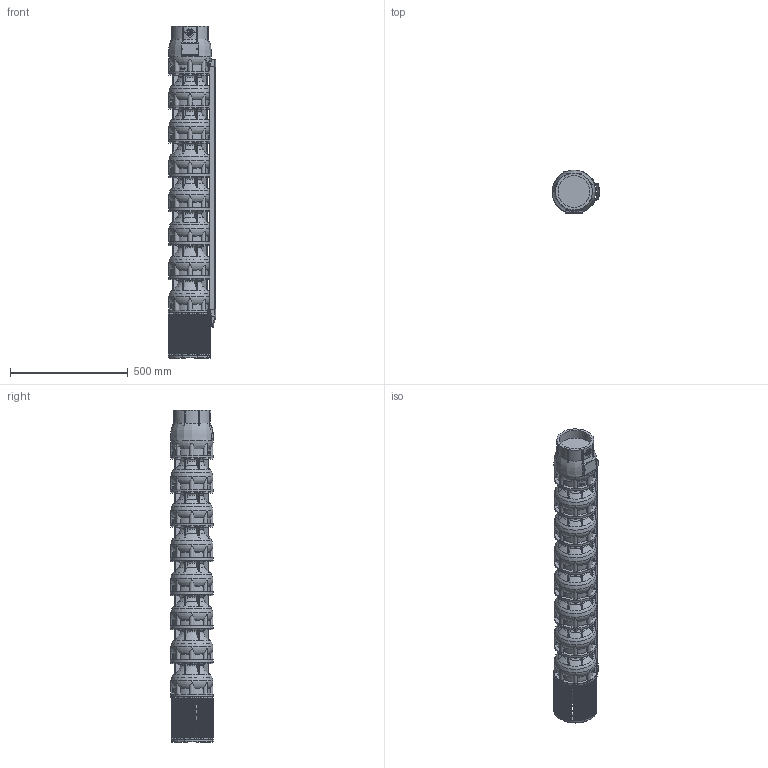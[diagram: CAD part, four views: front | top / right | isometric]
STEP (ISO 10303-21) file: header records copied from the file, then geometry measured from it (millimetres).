
FILE_DESCRIPTION(/* description */ ('Unknown'),/* implementation_level */ '2;1');
FILE_NAME(/* name */ 'VSI134-7_WR_M8-50_DLE',/* time_stamp */ '2023-09-14T13:15:16+02:00',/* author */ ('Unknown'),/* organization */ ('Unknown'),/* preprocessor_version */ 'ST-DEVELOPER v18.102',/* originating_system */ 'Solid Edge',/* authorisation */ 'Unknown');
FILE_SCHEMA (('AUTOMOTIVE_DESIGN {1 0 10303 214 3 1 1}'));
Products named in the file (11): VSI134-7_WR_M8-50_DLE; VSI134_testata; VSI134_diffusore; VSI134_supporto_8×8; VSI134_filtro_A; VSI134_filtro_B; VSI134_terminale_top_copricavo_basso; VSI134_terminale_bottom_copricavo_basso; LOW 134-7; M5X8_UNI7687; VSI134_giunto_8×8
Assembly tree (25 placements, depth 2):
  VSI134-7_WR_M8-50_DLE
    VSI134_testata
    VSI134_diffusore  x7
    VSI134_supporto_8×8
    VSI134_filtro_A
    VSI134_filtro_B
    VSI134_terminale_top_copricavo_basso
    VSI134_terminale_bottom_copricavo_basso
    LOW 134-7
    M5X8_UNI7687  x10
    VSI134_giunto_8×8
Bounding box: 201.57 x 183.52 x 1412 mm (x, y, z)
Volume: 24750335 mm3; surface area: 1937565 mm2
Topology: 64 solids, 66 shells, 3685 faces, 10413 edges, 6945 vertices
Faces by surface type: plane 2733, cylinder 496, torus 355, cone 58, bspline 31, sphere 12
Full cylindrical faces by diameter (mm): 2.4 x2, 3 x2, 4.2 x16, 5 x10, 5.5 x8, 26 x1, 44 x1, 69 x1, 74 x1, 98 x1, 135.472 x1, 157 x1, 182 x8
Entity records: 85513 total; most frequent: CARTESIAN_POINT 18358, ORIENTED_EDGE 14056, DIRECTION 13480, EDGE_CURVE 7028, VERTEX_POINT 4730, AXIS2_PLACEMENT_3D 4591, LINE 4298, VECTOR 4298
